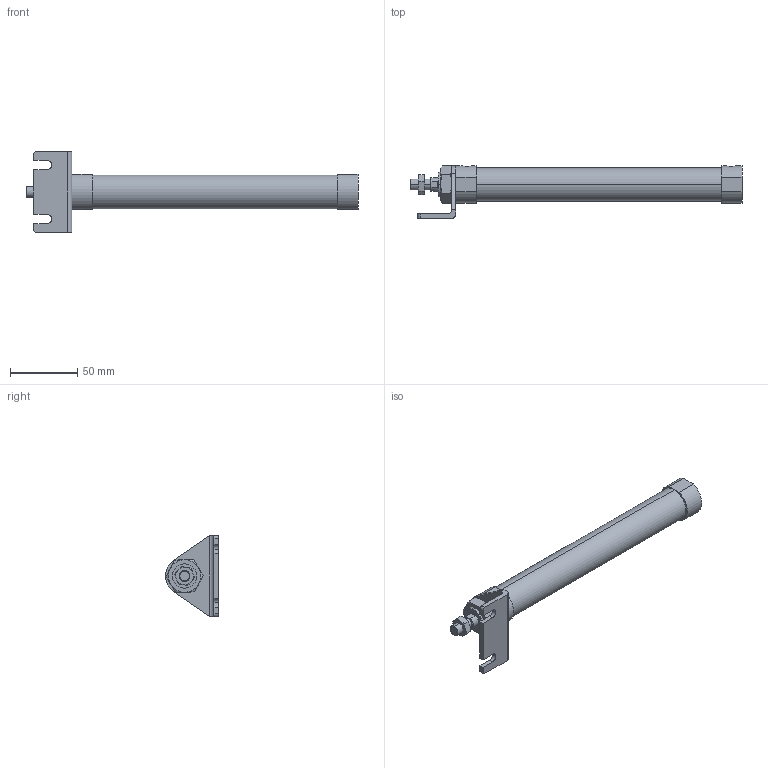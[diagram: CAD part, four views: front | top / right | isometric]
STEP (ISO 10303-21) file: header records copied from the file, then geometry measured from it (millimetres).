
FILE_DESCRIPTION (( 'STEP AP203' ), '1' );
FILE_NAME ('JGND2-20-150-L.STEP', '2016-08-04T02:33:30', ( '' ), ( '' ), 'SwSTEP 2.0', 'SolidWorks 2014', '' );
FILE_SCHEMA (( 'CONFIG_CONTROL_DESIGN' ));
Length unit declared in the file: millimetre
Products named in the file (5): J#2-20-150(P); JGND2-20-150-L; J#2-20-L
Assembly tree (4 placements, depth 2):
  JGND2-20-150-L
    J#2-20-150(P)
    (unnamed)
    (unnamed)
    J#2-20-L
Bounding box: 246 x 39 x 60 mm (x, y, z)
Volume: 121617 mm3; surface area: 28616.3 mm2
Topology: 4 solids, 4 shells, 111 faces, 255 edges, 160 vertices
Faces by surface type: plane 49, cylinder 34, torus 24, cone 4
Entity records: 4004 total; most frequent: CARTESIAN_POINT 989, DIRECTION 531, ORIENTED_EDGE 510, EDGE_CURVE 255, AXIS2_PLACEMENT_3D 214, VERTEX_POINT 160, EDGE_LOOP 125, ADVANCED_FACE 111
